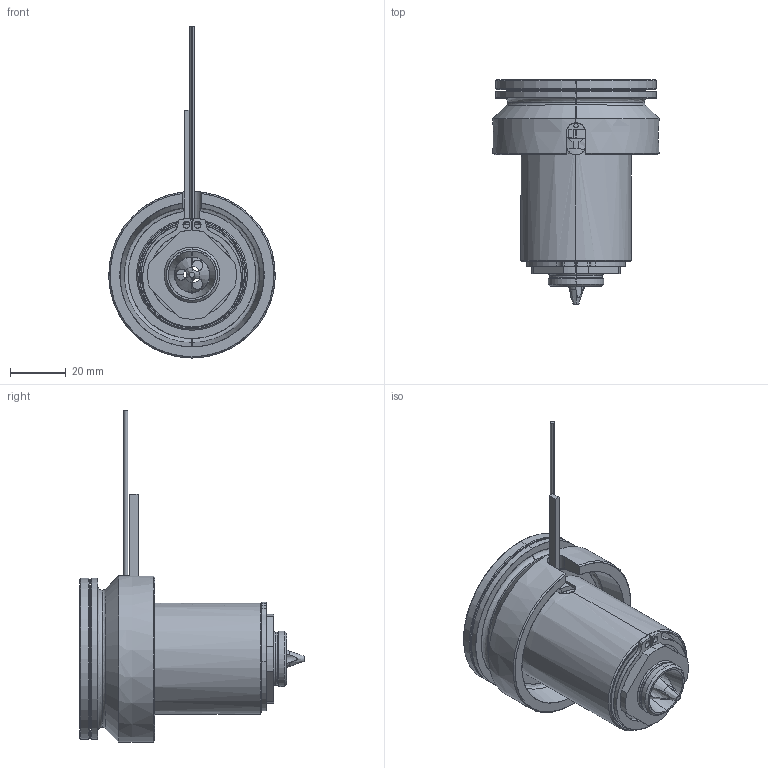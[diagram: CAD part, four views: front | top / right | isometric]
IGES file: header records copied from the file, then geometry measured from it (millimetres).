
Start section: SolidWorks IGES file using analytic representation for surfaces
Global section: file name: C:\Documents and Settings\ws-20\Desktop\TEM\UGEP6002-S-A-1 [Øf-1.9 ØC-16].IGS; native system: SolidWorks 2012; preprocessor: SolidWorks 2012; author: ws-20; date: 120427.093723; units: millimetre
Bounding box: 60 x 80.8 x 119.65 mm (x, y, z)
Surface area: 42013.2 mm2 (no closed solid volume)
Topology: 0 solids, 0 shells, 135 faces, 2771 edges, 2771 vertices
Faces by surface type: revolution 85, bspline 50
